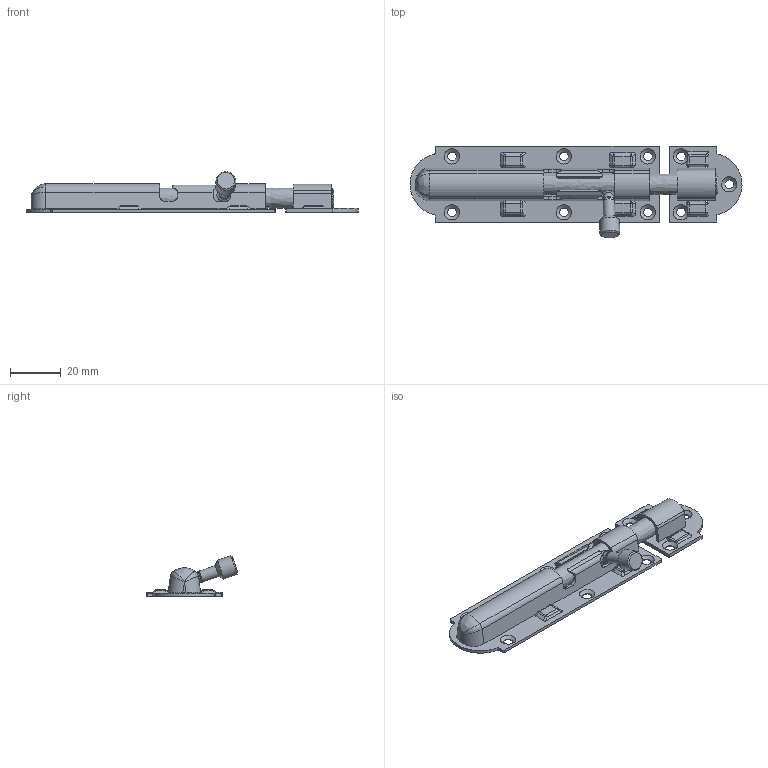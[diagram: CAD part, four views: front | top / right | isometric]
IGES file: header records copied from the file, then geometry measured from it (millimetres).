
Global section: file name: DR_ODS3-5S; native system: Autodesk Inventor 2015; preprocessor: unknown; author: Administrator; date: 20170901.110609; units: millimetre
Bounding box: 130.48 x 36.01 x 15.94 mm (x, y, z)
Volume: 11935.5 mm3; surface area: 15750.5 mm2
Topology: 5 solids, 5 shells, 363 faces, 969 edges, 609 vertices
Faces by surface type: bspline 363
